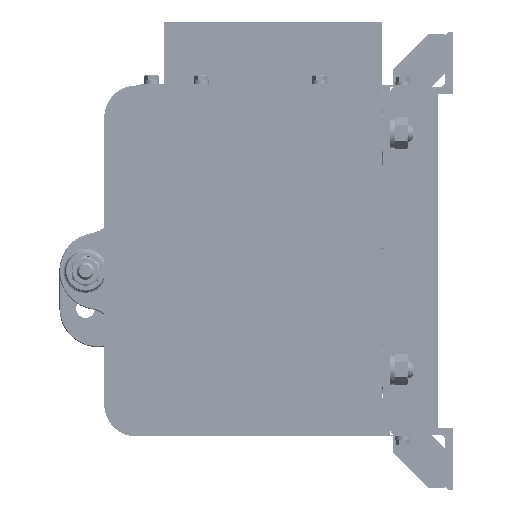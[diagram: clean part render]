
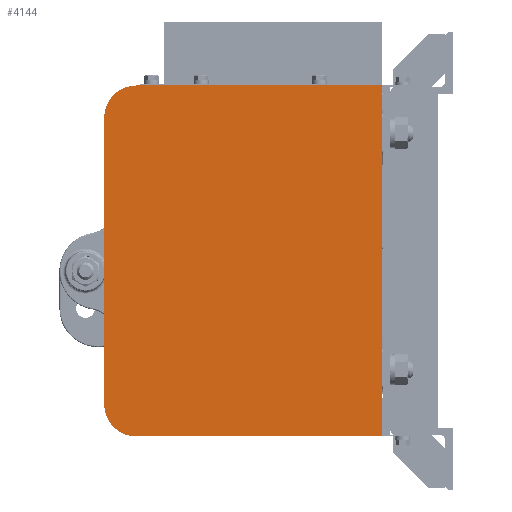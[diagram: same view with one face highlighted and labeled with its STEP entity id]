
A CAD part, left-side view. The second image highlights one B-rep face of the part: STEP entity #4144.
In plain terms, the highlighted planar face has unit normal (-1, 0, 0).
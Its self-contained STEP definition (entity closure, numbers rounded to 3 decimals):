
#4144=ADVANCED_FACE('',(#46173),#46172,.F.);
#46172=PLANE('',#189461);
#46173=FACE_OUTER_BOUND('',#189462,.T.);
#189458=CARTESIAN_POINT('',(-1364.265,-687.401,-824.894));
#189459=DIRECTION('',(1.,0.,0.));
#189460=DIRECTION('',(0.,0.,-1.));
#189461=AXIS2_PLACEMENT_3D('',#189458,#189459,#189460);
#189462=EDGE_LOOP('',(#217173,#217174,#217175,#217176,#217177,#217178));
#217173=ORIENTED_EDGE('',*,*,#234337,.F.);
#217174=ORIENTED_EDGE('',*,*,#227597,.F.);
#217175=ORIENTED_EDGE('',*,*,#227000,.F.);
#217176=ORIENTED_EDGE('',*,*,#234338,.F.);
#217177=ORIENTED_EDGE('',*,*,#234339,.F.);
#217178=ORIENTED_EDGE('',*,*,#234340,.F.);
#227000=EDGE_CURVE('',#264068,#264020,#264075,.T.);
#227597=EDGE_CURVE('',#264020,#268154,#268155,.T.);
#234337=EDGE_CURVE('',#268154,#312379,#312380,.T.);
#234338=EDGE_CURVE('',#312386,#264068,#312387,.T.);
#234339=EDGE_CURVE('',#312393,#312386,#312394,.T.);
#234340=EDGE_CURVE('',#312379,#312393,#312400,.T.);
#264020=VERTEX_POINT('',#348351);
#264068=VERTEX_POINT('',#348379);
#264075=LINE('',#348383,#348384);
#268154=VERTEX_POINT('',#351290);
#268155=LINE('',#351291,#351292);
#312379=VERTEX_POINT('',#399564);
#312380=LINE('',#399565,#399566);
#312386=VERTEX_POINT('',#399568);
#312387=CIRCLE('',#399572,26.);
#312393=VERTEX_POINT('',#399573);
#312394=LINE('',#399574,#399575);
#312400=CIRCLE('',#399580,26.);
#348351=CARTESIAN_POINT('',(-1364.265,-677.401,-834.894));
#348379=CARTESIAN_POINT('',(-1364.265,-480.401,-834.894));
#348383=CARTESIAN_POINT('',(-1364.265,-480.401,-834.894));
#348384=VECTOR('',#348385,197.);
#348385=DIRECTION('',(0.,-1.,0.));
#351290=CARTESIAN_POINT('',(-1364.265,-677.401,-1116.894));
#351291=CARTESIAN_POINT('',(-1364.265,-677.401,-834.894));
#351292=VECTOR('',#351293,282.);
#351293=DIRECTION('',(0.,0.,-1.));
#399564=CARTESIAN_POINT('',(-1364.265,-480.401,-1116.894));
#399565=CARTESIAN_POINT('',(-1364.265,-677.401,-1116.894));
#399566=VECTOR('',#399567,197.);
#399567=DIRECTION('',(0.,1.,0.));
#399568=CARTESIAN_POINT('',(-1364.265,-454.401,-860.894));
#399569=CARTESIAN_POINT('',(-1364.265,-480.401,-860.894));
#399570=DIRECTION('',(1.,0.,0.));
#399571=DIRECTION('',(0.,-1.,0.));
#399572=AXIS2_PLACEMENT_3D('',#399569,#399570,#399571);
#399573=CARTESIAN_POINT('',(-1364.265,-454.401,-1090.894));
#399574=CARTESIAN_POINT('',(-1364.265,-454.401,-1090.894));
#399575=VECTOR('',#399576,230.);
#399576=DIRECTION('',(0.,0.,1.));
#399577=CARTESIAN_POINT('',(-1364.265,-480.401,-1090.894));
#399578=DIRECTION('',(1.,0.,0.));
#399579=DIRECTION('',(0.,0.,1.));
#399580=AXIS2_PLACEMENT_3D('',#399577,#399578,#399579);
